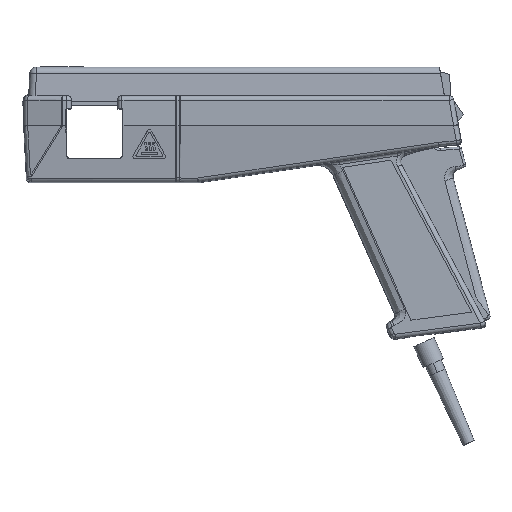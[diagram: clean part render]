
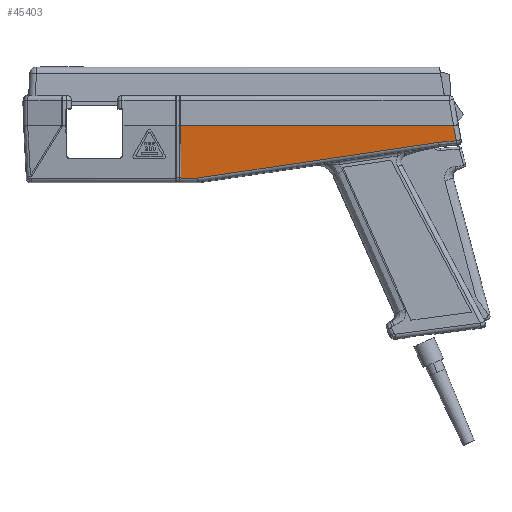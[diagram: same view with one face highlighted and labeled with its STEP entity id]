
A CAD part, top view. The second image highlights one B-rep face of the part: STEP entity #45403.
In plain terms, the highlighted planar face has unit normal (0, -0.104, 0.995) as drawn and (0, -0.105, -0.995) by its records, which use the part's own axes.
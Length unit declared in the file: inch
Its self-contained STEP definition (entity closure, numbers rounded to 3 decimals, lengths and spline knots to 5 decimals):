
#30620=CARTESIAN_POINT('',(-9.67667,-0.54561,
-0.7642));
#30621=CARTESIAN_POINT('',(-9.63222,-0.54746,
-0.76401));
#30622=CARTESIAN_POINT('',(-9.54337,-0.55273,
-0.76345));
#30623=CARTESIAN_POINT('',(-9.41018,-0.56532,
-0.76213));
#30624=CARTESIAN_POINT('',(-9.3216,-0.57683,
-0.76092));
#30625=CARTESIAN_POINT('',(-9.27735,-0.58338,
-0.76023));
#30638=DIRECTION('',(0.989,-0.146,0.015));
#30639=VECTOR('',#30638,5.51471);
#30640=CARTESIAN_POINT('',(-9.27735,-0.58338,
-0.76023));
#30641=LINE('',#30640,#30639);
#30668=DIRECTION('',(-0.004,-0.995,0.105));
#30669=VECTOR('',#30668,1.18669);
#30670=CARTESIAN_POINT('',(-3.43211,-0.21021,
-0.79945));
#30671=LINE('',#30670,#30669);
#31288=DIRECTION('',(1.,0.,0.));
#31289=VECTOR('',#31288,0.38622);
#31290=CARTESIAN_POINT('',(-3.82267,-1.39039,
-0.67541));
#31291=LINE('',#31290,#31289);
#36945=DIRECTION('',(-0.176,-0.979,0.103));
#36946=VECTOR('',#36945,0.3426);
#36947=CARTESIAN_POINT('',(-9.61628,-0.21021,
-0.79945));
#36948=LINE('',#36947,#36946);
#36960=DIRECTION('',(-1.,0.,0.));
#36961=VECTOR('',#36960,6.18417);
#36962=CARTESIAN_POINT('',(-3.43211,-0.21021,
-0.79945));
#36963=LINE('',#36962,#36961);
#42535=CARTESIAN_POINT('',(-9.61628,-0.21021,
-0.79945));
#42536=VERTEX_POINT('',#42535);
#42822=CARTESIAN_POINT('',(-3.82267,-1.39039,
-0.67541));
#42823=CARTESIAN_POINT('',(-3.43645,-1.39039,
-0.67541));
#42824=VERTEX_POINT('',#42822);
#42825=VERTEX_POINT('',#42823);
#42826=CARTESIAN_POINT('',(-9.27735,-0.58338,
-0.76023));
#42827=VERTEX_POINT('',#42826);
#42828=VERTEX_POINT('',#30620);
#42831=CARTESIAN_POINT('',(-3.43211,-0.21021,
-0.79945));
#42832=VERTEX_POINT('',#42831);
#45386=CARTESIAN_POINT('',(1.14842,-0.205,-0.8));
#45387=DIRECTION('',(0.,0.105,0.995));
#45388=DIRECTION('',(0.,-0.995,0.105));
#45389=AXIS2_PLACEMENT_3D('',#45386,#45387,#45388);
#45390=PLANE('',#45389);
#45392=ORIENTED_EDGE('',*,*,#45391,.T.);
#45394=ORIENTED_EDGE('',*,*,#45393,.F.);
#45396=ORIENTED_EDGE('',*,*,#45395,.T.);
#45398=ORIENTED_EDGE('',*,*,#45397,.T.);
#45399=ORIENTED_EDGE('',*,*,#45365,.T.);
#45400=ORIENTED_EDGE('',*,*,#45377,.T.);
#45401=EDGE_LOOP('',(#45392,#45394,#45396,#45398,#45399,#45400));
#45402=FACE_OUTER_BOUND('',#45401,.F.);
#45403=ADVANCED_FACE('',(#45402),#45390,.F.);
#30626=B_SPLINE_CURVE_WITH_KNOTS('',3,(#30620,#30621,#30622,#30623,#30624,
#30625),.UNSPECIFIED.,.F.,.F.,(4,1,1,4),(0.,0.33333,
0.66667,1.),.UNSPECIFIED.);
#45365=EDGE_CURVE('',#42828,#42827,#30626,.T.);
#45377=EDGE_CURVE('',#42827,#42824,#30641,.T.);
#45391=EDGE_CURVE('',#42824,#42825,#31291,.T.);
#45393=EDGE_CURVE('',#42832,#42825,#30671,.T.);
#45395=EDGE_CURVE('',#42832,#42536,#36963,.T.);
#45397=EDGE_CURVE('',#42536,#42828,#36948,.T.);
